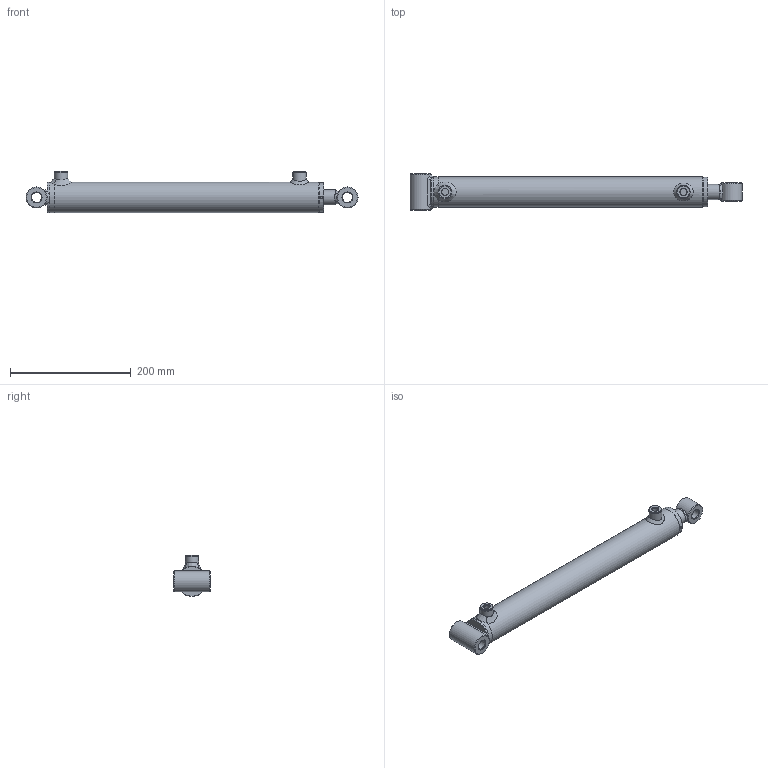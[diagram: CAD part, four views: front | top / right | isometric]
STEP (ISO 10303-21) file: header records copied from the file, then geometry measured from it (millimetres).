
FILE_DESCRIPTION( ( 'Unknown' ), '1' );
FILE_NAME( 'E:/LIBRERIA_3d/CILINDRI/HM2/HM21250350.stp', 'Unknown', ( 'Unknown' ), ( 'Unknown' ), 'PSStep 17.0.49', 'Unknown', ' ' );
FILE_SCHEMA( ( 'AUTOMOTIVE_DESIGN { 1 0 10303 214 1 1 1 1 }' ) );
Length unit declared in the file: millimetre
Products named in the file (26): STL1500350-oa4; Saldatura d'angolo 1-oa2; FTM1500350-oa3; CBSC220400; CT00040015; CG05004025; HM01250350; Saldatura con preparazione 1-oa0; Saldatura d'angolo 1-oa1; CF00040050; CDA0001415; CBS0400000; APG0400000; SBL2510350; Assem1; CB16035030; CB16035060; Saldatura d'angolo 1-oa5; Saldatura d'angolo 2-oa6
Assembly tree (18 placements, depth 4):
  Saldatura d'angolo 1-oa2
  Saldatura d'angolo 1-oa2
  Saldatura d'angolo 1-oa1
  Saldatura d'angolo 1-oa1
  Assem1
    CB16035030
    CB16035060
    HM01250350
      Saldatura con preparazione 1-oa0
      Saldatura con preparazione 1-oa0
      CF00040050
      CDA0001415
      CBS0400000
      APG0400000  x2
      SBL2510350
      CT00040015
        CT00040015
      CG05004025
        CG05004025
      STL1500350-oa4
        FTM1500350-oa3
        CBSC220400
Bounding box: 550 x 60 x 68 mm (x, y, z)
Volume: 693606.8 mm3; surface area: 234433.1 mm2
Topology: 22 solids, 22 shells, 292 faces, 599 edges, 342 vertices
Faces by surface type: bspline 86, plane 72, cylinder 60, cone 42, torus 32
Full cylindrical faces by diameter (mm): 4 x4, 4.25 x1, 7 x2, 11.445 x2, 12 x2, 13.1 x2, 14 x2, 15 x3, 16.2 x2, 19.5 x1, 20 x2, 22 x3, 25 x4, 27 x1, 28 x1, 30 x1, 33 x1, 33.6 x1, 35 x3, 35.4 x2, 38.5 x2, 39.9 x1, 40 x1, 40.3 x1, 40.5 x1, 40.6 x1, 41 x1, 42 x3, 42.5 x1, 44 x1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
Entity records: 15970 total; most frequent: CARTESIAN_POINT 8782, DIRECTION 838, ORIENTED_EDGE 796, EDGE_LOOP 460, AXIS2_PLACEMENT_3D 401, EDGE_CURVE 398, FACE_OUTER_BOUND 378, VERTEX_POINT 299
